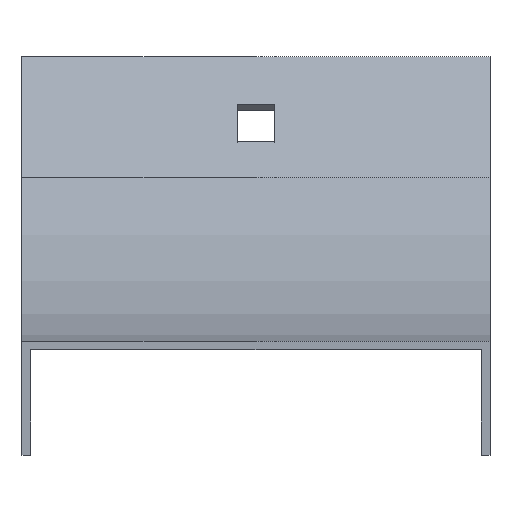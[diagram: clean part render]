
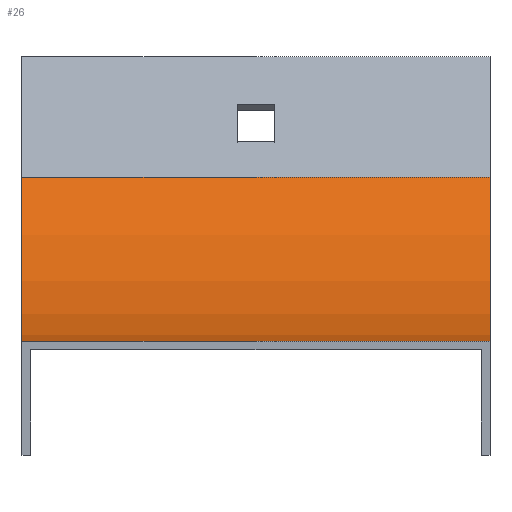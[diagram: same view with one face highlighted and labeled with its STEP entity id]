
A CAD part, top view. The second image highlights one B-rep face of the part: STEP entity #26.
In plain terms, the highlighted cylindrical face has radius 98.5 mm (diameter 197 mm), a partial arc.
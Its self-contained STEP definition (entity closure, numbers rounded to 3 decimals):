
#26 = ADVANCED_FACE ( 'NONE', ( #449 ), #388, .F. ) ;
#48 = VERTEX_POINT ( 'NONE', #745 ) ;
#108 = EDGE_LOOP ( 'NONE', ( #708, #517, #656, #860 ) ) ;
#146 = EDGE_CURVE ( 'NONE', #369, #522, #524, .T. ) ;
#158 = CARTESIAN_POINT ( 'NONE',  ( 41., 98.5, -30. ) ) ;
#162 = EDGE_CURVE ( 'NONE', #48, #644, #365, .T. ) ;
#164 = EDGE_CURVE ( 'NONE', #644, #522, #279, .T. ) ;
#190 = VECTOR ( 'NONE', #833, 1000. ) ;
#195 = CARTESIAN_POINT ( 'NONE',  ( -41., 0., -30. ) ) ;
#196 = AXIS2_PLACEMENT_3D ( 'NONE', #202, #397, #591 ) ;
#198 = DIRECTION ( 'NONE',  ( 0., 0., -1. ) ) ;
#202 = CARTESIAN_POINT ( 'NONE',  ( -41., 98.5, -30. ) ) ;
#279 = LINE ( 'NONE', #458, #595 ) ;
#321 = AXIS2_PLACEMENT_3D ( 'NONE', #158, #411, #327 ) ;
#327 = DIRECTION ( 'NONE',  ( 0., 0., 1. ) ) ;
#365 = CIRCLE ( 'NONE', #482, 98.5 ) ;
#369 = VERTEX_POINT ( 'NONE', #742 ) ;
#388 = CYLINDRICAL_SURFACE ( 'NONE', #321, 98.5 ) ;
#397 = DIRECTION ( 'NONE',  ( -1., 0., 0. ) ) ;
#411 = DIRECTION ( 'NONE',  ( -1., 0., 0. ) ) ;
#449 = FACE_OUTER_BOUND ( 'NONE', #108, .T. ) ;
#458 = CARTESIAN_POINT ( 'NONE',  ( 41., 0., -30. ) ) ;
#482 = AXIS2_PLACEMENT_3D ( 'NONE', #728, #537, #198 ) ;
#486 = EDGE_CURVE ( 'NONE', #48, #369, #501, .T. ) ;
#501 = LINE ( 'NONE', #573, #190 ) ;
#517 = ORIENTED_EDGE ( 'NONE', *, *, #164, .F. ) ;
#522 = VERTEX_POINT ( 'NONE', #195 ) ;
#524 = CIRCLE ( 'NONE', #196, 98.5 ) ;
#537 = DIRECTION ( 'NONE',  ( -1., 0., 0. ) ) ;
#542 = CARTESIAN_POINT ( 'NONE',  ( 41., 0., -30. ) ) ;
#573 = CARTESIAN_POINT ( 'NONE',  ( 41., 28.85, -99.65 ) ) ;
#591 = DIRECTION ( 'NONE',  ( 0., 0., -1. ) ) ;
#595 = VECTOR ( 'NONE', #666, 1000. ) ;
#644 = VERTEX_POINT ( 'NONE', #542 ) ;
#656 = ORIENTED_EDGE ( 'NONE', *, *, #162, .F. ) ;
#666 = DIRECTION ( 'NONE',  ( -1., 0., 0. ) ) ;
#708 = ORIENTED_EDGE ( 'NONE', *, *, #146, .T. ) ;
#728 = CARTESIAN_POINT ( 'NONE',  ( 41., 98.5, -30. ) ) ;
#742 = CARTESIAN_POINT ( 'NONE',  ( -41., 28.85, -99.65 ) ) ;
#745 = CARTESIAN_POINT ( 'NONE',  ( 41., 28.85, -99.65 ) ) ;
#833 = DIRECTION ( 'NONE',  ( -1., 0., 0. ) ) ;
#860 = ORIENTED_EDGE ( 'NONE', *, *, #486, .T. ) ;
